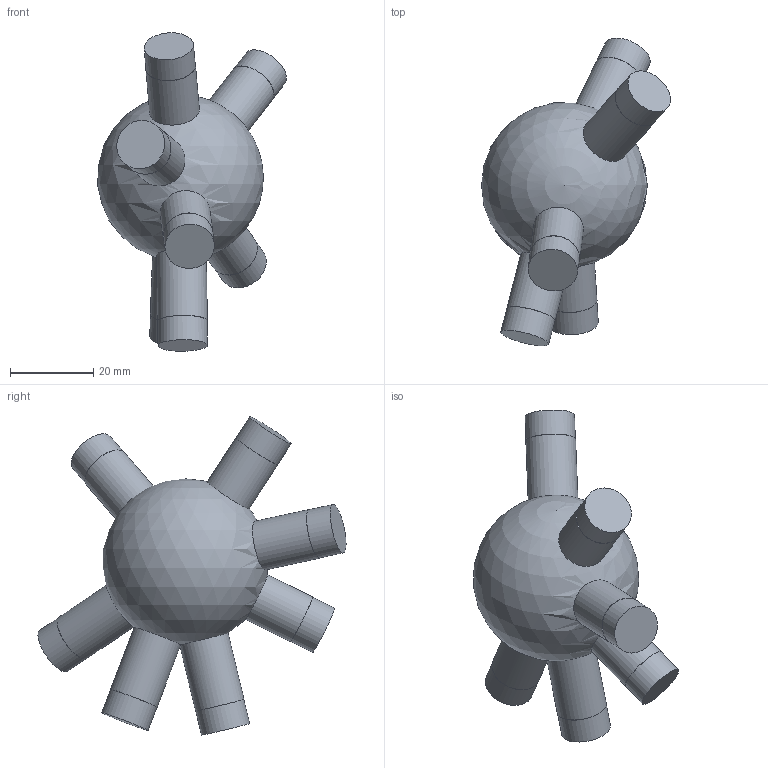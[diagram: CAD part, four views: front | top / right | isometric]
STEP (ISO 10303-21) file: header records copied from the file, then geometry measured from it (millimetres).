
FILE_DESCRIPTION(('Open CASCADE Model'),'2;1');
FILE_NAME('Open CASCADE Shape Model','2026-10-21T12:47:57',('Author'),( 'Open CASCADE'),'Open CASCADE STEP processor 7.9','Open CASCADE 7.9' ,'Unknown');
FILE_SCHEMA(('AUTOMOTIVE_DESIGN { 1 0 10303 214 1 1 1 1 }'));
Length unit declared in the file: millimetre
Products named in the file (1): Open CASCADE STEP translator 7.9 121
Bounding box: 45.51 x 74.17 x 76.66 mm (x, y, z)
Volume: 49390.9 mm3; surface area: 10436.2 mm2
Topology: 1 solids, 1 shells, 29 faces, 49 edges, 33 vertices
Faces by surface type: cylinder 14, plane 14, sphere 1
Full cylindrical faces by diameter (mm): 11.9 x7, 12 x7
Entity records: 2027 total; most frequent: CARTESIAN_POINT 930, DIRECTION 223, ORIENTED_EDGE 96, PCURVE 96, DEFINITIONAL_REPRESENTATION 96, LINE 74, VECTOR 74, AXIS2_PLACEMENT_3D 64
